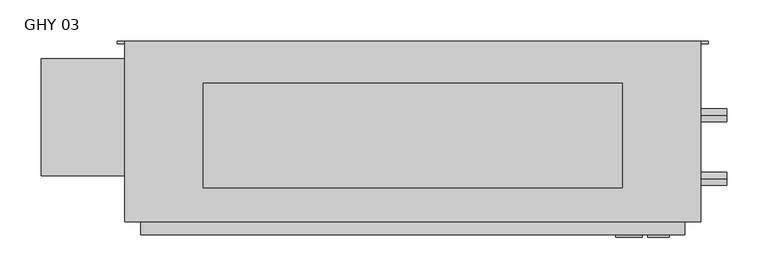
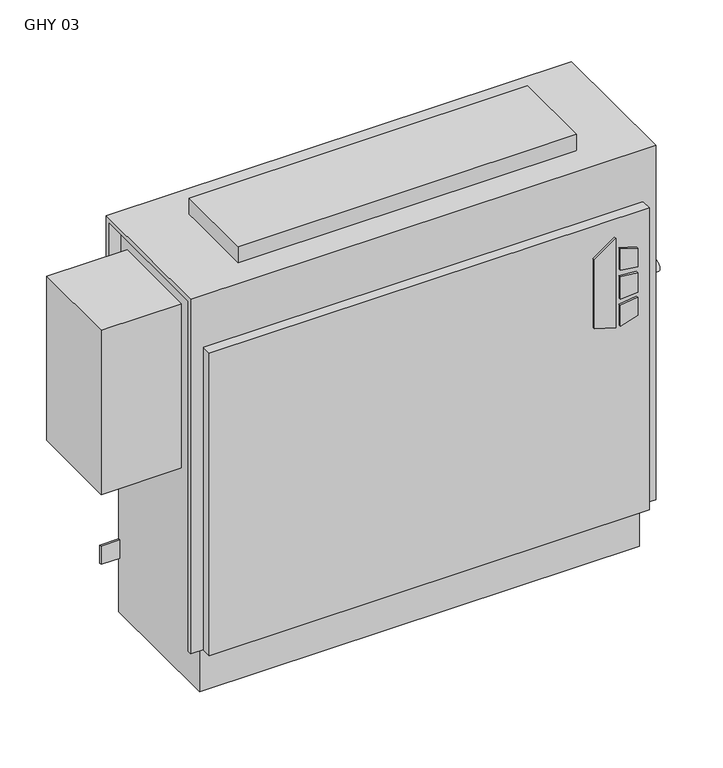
"""IFC4 building model written with IfcOpenShell, lengths in millimetres: proxy geometry, Vertical_Fan_Coil_Unit_-_GHY_-_IEC_-_2-Pipe_TS-FR_RH_2022 : GHY 03."""

from ifc_helpers import new_model, si_unit, point, frame, frame_2d, origin, place, context, project, spatial, polyline, circle_curve, trimmed, segment, composite_curve, outline, extrude, source, transform, mapped, element, save
from ifc_brep_helpers import plane_surface, revolved_surface, advanced_brep


def ghy_03_13433400(model_context):
    return source(origin(), model_context, "Body", "SolidModel", [
        extrude(outline(polyline([(391.6086829, 398.5368862), (381.6606126, 430.7102728), (523.831537, 430.7102728), (500.8095309, 398.5368862), (391.6086829, 398.5368862)])), frame((0.0, 6.35, 0.0), z_axis=(0.0, 1.0, 0.0), x_axis=(0.0, 0.0, 1.0)), (0.0, 0.0, 1.0), 3.175),
        extrude(outline(polyline([(470.6079683, 437.4686058), (467.4055757, 463.55), (496.6344168, 463.55), (504.6988318, 437.4686058), (470.6079683, 437.4686058)])), frame((0.0, 6.35, 0.0), z_axis=(0.0, 1.0, 0.0), x_axis=(0.0, 0.0, 1.0)), (0.0, 0.0, 1.0), 3.175),
        extrude(outline(polyline([(418.7444414, 463.55), (415.0789404, 437.4686058), (381.6606126, 437.4686058), (390.2948498, 463.55), (418.7444414, 463.55)])), frame((0.0, 6.35, 0.0), z_axis=(0.0, 1.0, 0.0), x_axis=(0.0, 0.0, 1.0)), (0.0, 0.0, 1.0), 3.175),
        extrude(outline(polyline([(458.0596028, 463.55), (460.3414292, 437.4686058), (424.4038806, 437.4686058), (427.1451456, 463.55), (458.0596028, 463.55)])), frame((0.0, 6.35, 0.0), z_axis=(0.0, 1.0, 0.0), x_axis=(0.0, 0.0, 1.0)), (0.0, 0.0, 1.0), 3.175),
        extrude(outline(polyline([(406.4, 193.675), (406.4, 66.675), (-101.6, 66.675), (-101.6, 193.675), (406.4, 193.675)])), frame((0.0, 0.0, 635.0), z_axis=(0.0, 0.0, 1.0), x_axis=(1.0, 0.0, 0.0)), (0.0, 0.0, 1.0), 25.4),
        extrude(outline(composite_curve([segment(trimmed(circle_curve(frame_2d((77.597, 401.574)), 7.9375), [point((77.597, 393.6365))], [point((77.597, 409.5115))], False, "CARTESIAN"), True, "CONTINUOUS"), segment(trimmed(circle_curve(frame_2d((77.597, 401.574)), 7.9375), [point((77.597, 409.5115))], [point((77.597, 393.6365))], False, "CARTESIAN"), True, "CONTINUOUS")], self_intersect=False)), frame((482.6, 0.0, 0.0), z_axis=(1.0, 0.0, 0.0), x_axis=(0.0, 1.0, 0.0)), (0.0, 0.0, 1.0), 50.8),
        extrude(outline(composite_curve([segment(trimmed(circle_curve(frame_2d((154.559, 540.512)), 7.9375), [point((154.559, 532.5745))], [point((154.559, 548.4495))], False, "CARTESIAN"), True, "CONTINUOUS"), segment(trimmed(circle_curve(frame_2d((154.559, 540.512)), 7.9375), [point((154.559, 548.4495))], [point((154.559, 532.5745))], False, "CARTESIAN"), True, "CONTINUOUS")], self_intersect=False)), frame((482.6, 0.0, 0.0), z_axis=(1.0, 0.0, 0.0), x_axis=(0.0, 1.0, 0.0)), (0.0, 0.0, 1.0), 50.8),
        extrude(outline(polyline([(-298.45, 223.266), (-177.8, 223.266), (-177.8, 81.534), (-298.45, 81.534), (-298.45, 223.266)])), frame((0.0, 0.0, 327.025), z_axis=(0.0, 0.0, 1.0), x_axis=(1.0, 0.0, 0.0)), (0.0, 0.0, 1.0), 260.35),
        advanced_brep(
        [(501.65, 244.475, 635.0), (-196.85, 244.475, 635.0), (-196.85, 25.4, 635.0), (501.65, 25.4, 635.0), (-177.8, 244.475, 0.0), (482.6, 244.475, 0.0), (482.6, 34.925, 0.0), (-177.8, 34.925, 0.0), (501.65, 244.475, 558.8), (482.6, 244.475, 558.8), (482.6, 244.475, 414.3375), (511.175, 244.475, 414.3375), (511.175, 244.475, 385.7625), (482.6, 244.475, 385.7625), (482.6, 244.475, 287.3375), (511.175, 244.475, 287.3375), (511.175, 244.475, 258.7625), (482.6, 244.475, 258.7625), (482.6, 244.475, 141.2875), (511.175, 244.475, 141.2875), (511.175, 244.475, 112.7125), (482.6, 244.475, 112.7125), (-177.8, 244.475, 87.3125), (-206.375, 244.475, 87.3125), (-206.375, 244.475, 115.8875), (-177.8, 244.475, 115.8875), (-177.8, 244.475, 258.7625), (-206.375, 244.475, 258.7625), (-206.375, 244.475, 287.3375), (-177.8, 244.475, 287.3375), (-177.8, 244.475, 385.7625), (-206.375, 244.475, 385.7625), (-206.375, 244.475, 414.3375), (-177.8, 244.475, 414.3375), (-177.8, 244.475, 558.8), (-196.85, 244.475, 558.8), (500.8626, 244.475, 127.0), (489.7374, 244.475, 127.0), (500.8626, 244.475, 273.05), (489.7374, 244.475, 273.05), (-184.9374, 244.475, 273.05), (-196.0626, 244.475, 273.05), (500.8626, 244.475, 400.05), (489.7374, 244.475, 400.05), (-184.9374, 244.475, 400.05), (-196.0626, 244.475, 400.05), (-196.85, 238.125, 558.8), (-196.85, 238.125, 628.65), (-196.85, 31.75, 628.65), (-196.85, 31.75, 73.025), (-196.85, 25.4, 73.025), (482.6, 9.525, 552.45), (-177.8, 9.525, 552.45), (-177.8, 9.525, 73.025), (482.6, 9.525, 73.025), (501.65, 25.4, 73.025), (501.65, 31.75, 73.025), (501.65, 31.75, 628.65), (501.65, 238.125, 628.65), (501.65, 238.125, 558.8), (-177.8, 25.4, 73.025), (-177.8, 25.4, 552.45), (482.6, 25.4, 552.45), (482.6, 25.4, 73.025), (-177.8, 31.75, 73.025), (-177.8, 34.925, 73.025), (482.6, 34.925, 73.025), (482.6, 31.75, 73.025), (482.6, 241.3, 112.7125), (482.6, 241.3, 141.2875), (482.6, 241.3, 258.7625), (482.6, 241.3, 287.3375), (482.6, 241.3, 385.7625), (482.6, 241.3, 414.3375), (482.6, 238.125, 558.8), (482.6, 238.125, 628.65), (482.6, 31.75, 628.65), (-177.8, 31.75, 628.65), (-177.8, 238.125, 628.65), (-177.8, 238.125, 558.8), (-177.8, 241.3, 414.3375), (-177.8, 241.3, 385.7625), (-177.8, 241.3, 287.3375), (-177.8, 241.3, 258.7625), (-177.8, 241.3, 115.8875), (-177.8, 241.3, 87.3125), (511.175, 241.3, 112.7125), (511.175, 241.3, 141.2875), (489.7374, 241.3, 127.0), (500.8626, 241.3, 127.0), (511.175, 241.3, 258.7625), (511.175, 241.3, 287.3375), (489.7374, 241.3, 273.05), (500.8626, 241.3, 273.05), (511.175, 241.3, 385.7625), (511.175, 241.3, 414.3375), (489.7374, 241.3, 400.05), (500.8626, 241.3, 400.05), (-206.375, 241.3, 115.8875), (-206.375, 241.3, 87.3125), (-206.375, 241.3, 287.3375), (-206.375, 241.3, 258.7625), (-196.0626, 241.3, 273.05), (-184.9374, 241.3, 273.05), (-206.375, 241.3, 414.3375), (-206.375, 241.3, 385.7625), (-196.0626, 241.3, 400.05), (-184.9374, 241.3, 400.05)],
        [
            (0, 1),
            (1, 2),
            (2, 3),
            (3, 0),
            (4, 5),
            (5, 6),
            (6, 7),
            (7, 4),
            (0, 8),
            (8, 9),
            (9, 10),
            (10, 11),
            (11, 12),
            (12, 13),
            (13, 14),
            (14, 15),
            (15, 16),
            (16, 17),
            (17, 18),
            (18, 19),
            (19, 20),
            (20, 21),
            (21, 5),
            (4, 22),
            (22, 23),
            (23, 24),
            (24, 25),
            (25, 26),
            (26, 27),
            (27, 28),
            (28, 29),
            (29, 30),
            (30, 31),
            (31, 32),
            (32, 33),
            (33, 34),
            (34, 35),
            (35, 1),
            (36, 37, circle_curve(frame((495.3, 244.475, 127.0), z_axis=(0.0, -1.0, 0.0), x_axis=(-1.0, 0.0, 0.0)), 5.5626)),
            (37, 36, circle_curve(frame((495.3, 244.475, 127.0), z_axis=(0.0, -1.0, 0.0), x_axis=(-1.0, 0.0, 0.0)), 5.5626)),
            (38, 39, circle_curve(frame((495.3, 244.475, 273.05), z_axis=(0.0, -1.0, 0.0), x_axis=(-1.0, 0.0, 0.0)), 5.5626)),
            (39, 38, circle_curve(frame((495.3, 244.475, 273.05), z_axis=(0.0, -1.0, 0.0), x_axis=(-1.0, 0.0, 0.0)), 5.5626)),
            (40, 41, circle_curve(frame((-190.5, 244.475, 273.05), z_axis=(0.0, -1.0, 0.0), x_axis=(-1.0, 0.0, 0.0)), 5.5626)),
            (41, 40, circle_curve(frame((-190.5, 244.475, 273.05), z_axis=(0.0, -1.0, 0.0), x_axis=(-1.0, 0.0, 0.0)), 5.5626)),
            (42, 43, circle_curve(frame((495.3, 244.475, 400.05), z_axis=(0.0, -1.0, 0.0), x_axis=(-1.0, 0.0, 0.0)), 5.5626)),
            (43, 42, circle_curve(frame((495.3, 244.475, 400.05), z_axis=(0.0, -1.0, 0.0), x_axis=(-1.0, 0.0, 0.0)), 5.5626)),
            (44, 45, circle_curve(frame((-190.5, 244.475, 400.05), z_axis=(0.0, -1.0, 0.0), x_axis=(-1.0, 0.0, 0.0)), 5.5626)),
            (45, 44, circle_curve(frame((-190.5, 244.475, 400.05), z_axis=(0.0, -1.0, 0.0), x_axis=(-1.0, 0.0, 0.0)), 5.5626)),
            (35, 46),
            (46, 47),
            (47, 48),
            (48, 49),
            (49, 50),
            (50, 2),
            (51, 52),
            (52, 53),
            (53, 54),
            (54, 51),
            (3, 55),
            (55, 56),
            (56, 57),
            (57, 58),
            (58, 59),
            (59, 8),
            (50, 60),
            (60, 61),
            (61, 62),
            (62, 63),
            (63, 55),
            (51, 62),
            (61, 52),
            (53, 60),
            (49, 64),
            (64, 65),
            (65, 66),
            (66, 67),
            (67, 56),
            (63, 54),
            (6, 66),
            (65, 7),
            (21, 68),
            (68, 69),
            (69, 18),
            (17, 70),
            (70, 71),
            (71, 14),
            (13, 72),
            (72, 73),
            (73, 10),
            (9, 74),
            (74, 75),
            (75, 76),
            (76, 67),
            (64, 77),
            (77, 78),
            (78, 79),
            (79, 34),
            (33, 80),
            (80, 81),
            (81, 30),
            (29, 82),
            (82, 83),
            (83, 26),
            (25, 84),
            (84, 85),
            (85, 22),
            (74, 59),
            (58, 75),
            (76, 57),
            (48, 77),
            (79, 46),
            (78, 47),
            (68, 86),
            (86, 87),
            (87, 69),
            (88, 89, circle_curve(frame((495.3, 241.3, 127.0), z_axis=(0.0, 1.0, 0.0), x_axis=(-1.0, 0.0, 0.0)), 5.5626)),
            (89, 88, circle_curve(frame((495.3, 241.3, 127.0), z_axis=(0.0, 1.0, 0.0), x_axis=(-1.0, 0.0, 0.0)), 5.5626)),
            (90, 91),
            (91, 71),
            (70, 90),
            (92, 93, circle_curve(frame((495.3, 241.3, 273.05), z_axis=(0.0, 1.0, 0.0), x_axis=(-1.0, 0.0, 0.0)), 5.5626)),
            (93, 92, circle_curve(frame((495.3, 241.3, 273.05), z_axis=(0.0, 1.0, 0.0), x_axis=(-1.0, 0.0, 0.0)), 5.5626)),
            (94, 95),
            (95, 73),
            (72, 94),
            (96, 97, circle_curve(frame((495.3, 241.3, 400.05), z_axis=(0.0, 1.0, 0.0), x_axis=(-1.0, 0.0, 0.0)), 5.5626)),
            (97, 96, circle_curve(frame((495.3, 241.3, 400.05), z_axis=(0.0, 1.0, 0.0), x_axis=(-1.0, 0.0, 0.0)), 5.5626)),
            (98, 99),
            (99, 85),
            (84, 98),
            (82, 100),
            (100, 101),
            (101, 83),
            (102, 103, circle_curve(frame((-190.5, 241.3, 273.05), z_axis=(0.0, 1.0, 0.0), x_axis=(-1.0, 0.0, 0.0)), 5.5626)),
            (103, 102, circle_curve(frame((-190.5, 241.3, 273.05), z_axis=(0.0, 1.0, 0.0), x_axis=(-1.0, 0.0, 0.0)), 5.5626)),
            (104, 105),
            (105, 81),
            (80, 104),
            (106, 107, circle_curve(frame((-190.5, 241.3, 400.05), z_axis=(0.0, 1.0, 0.0), x_axis=(-1.0, 0.0, 0.0)), 5.5626)),
            (107, 106, circle_curve(frame((-190.5, 241.3, 400.05), z_axis=(0.0, 1.0, 0.0), x_axis=(-1.0, 0.0, 0.0)), 5.5626)),
            (87, 19),
            (86, 20),
            (16, 90),
            (91, 15),
            (12, 94),
            (95, 11),
            (24, 98),
            (99, 23),
            (101, 27),
            (100, 28),
            (32, 104),
            (105, 31),
            (88, 37),
            (36, 89),
            (92, 39),
            (38, 93),
            (102, 41),
            (40, 103),
            (96, 43),
            (42, 97),
            (106, 45),
            (44, 107),
        ],
        [
            plane_surface(frame((-196.85, 244.475, 635.0), z_axis=(0.0, 0.0, 1.0), x_axis=(-1.0, 0.0, 0.0))),
            plane_surface(frame((-196.85, 244.475, 0.0), z_axis=(0.0, 0.0, -1.0), x_axis=(1.0, 0.0, 0.0))),
            plane_surface(frame((501.65, 244.475, 635.0), z_axis=(0.0, 1.0, 0.0), x_axis=(0.0, 0.0, -1.0))),
            plane_surface(frame((-196.85, 244.475, 635.0), z_axis=(-1.0, 0.0, 0.0), x_axis=(0.0, 0.0, -1.0))),
            plane_surface(frame((-196.85, 9.525, 635.0), z_axis=(0.0, -1.0, 0.0), x_axis=(0.0, 0.0, -1.0))),
            plane_surface(frame((501.65, 9.525, 635.0), z_axis=(1.0, 0.0, 0.0), x_axis=(0.0, 0.0, -1.0))),
            plane_surface(frame((-247.65, 25.4, 635.0), z_axis=(0.0, -1.0, 0.0), x_axis=(1.0, 0.0, 0.0))),
            plane_surface(frame((-247.65, 25.4, 552.45), z_axis=(0.0, 0.0, 1.0), x_axis=(1.0, 0.0, 0.0))),
            plane_surface(frame((-196.85, 9.525, 73.025), z_axis=(0.0, 0.0, -1.0), x_axis=(1.0, 0.0, 0.0))),
            plane_surface(frame((-196.85, 34.925, 73.025), z_axis=(0.0, -1.0, 0.0), x_axis=(1.0, 0.0, 0.0))),
            plane_surface(frame((482.6, 25.4, 73.025), z_axis=(1.0, 0.0, 0.0), x_axis=(0.0, -1.0, 0.0))),
            plane_surface(frame((-177.8, 25.4, 552.45), z_axis=(-1.0, 0.0, 0.0), x_axis=(0.0, -1.0, 0.0))),
            plane_surface(frame((482.6, 244.475, 0.0), z_axis=(1.0, 0.0, 0.0), x_axis=(0.0, -1.0, 0.0))),
            plane_surface(frame((-177.8, 244.475, 73.025), z_axis=(-1.0, 0.0, 0.0), x_axis=(0.0, -1.0, 0.0))),
            plane_surface(frame((482.6, 238.125, 628.65), z_axis=(0.0, -1.0, 0.0), x_axis=(1.0, 0.0, 0.0))),
            plane_surface(frame((482.6, 238.125, 558.8), z_axis=(0.0, 0.0, -1.0), x_axis=(1.0, 0.0, 0.0))),
            plane_surface(frame((482.6, 31.75, 73.025), z_axis=(0.0, 1.0, 0.0), x_axis=(1.0, 0.0, 0.0))),
            plane_surface(frame((482.6, 31.75, 628.65), z_axis=(0.0, 0.0, -1.0), x_axis=(1.0, 0.0, 0.0))),
            plane_surface(frame((-177.8, 31.75, 628.65), z_axis=(0.0, 1.0, 0.0), x_axis=(-1.0, 0.0, 0.0))),
            plane_surface(frame((-177.8, 244.475, 558.8), z_axis=(0.0, 0.0, -1.0), x_axis=(-1.0, 0.0, 0.0))),
            plane_surface(frame((-177.8, 238.125, 558.8), z_axis=(0.0, -1.0, 0.0), x_axis=(-1.0, 0.0, 0.0))),
            plane_surface(frame((-177.8, 238.125, 628.65), z_axis=(0.0, 0.0, -1.0), x_axis=(-1.0, 0.0, 0.0))),
            plane_surface(frame((511.175, 241.3, 141.2875), z_axis=(0.0, -1.0, 0.0), x_axis=(-1.0, 0.0, 0.0))),
            plane_surface(frame((482.6, 244.475, 141.2875), z_axis=(0.0, 0.0, 1.0), x_axis=(0.0, -1.0, 0.0))),
            plane_surface(frame((511.175, 244.475, 141.2875), z_axis=(1.0, 0.0, 0.0), x_axis=(0.0, -1.0, 0.0))),
            plane_surface(frame((511.175, 244.475, 112.7125), z_axis=(0.0, 0.0, -1.0), x_axis=(0.0, -1.0, 0.0))),
            plane_surface(frame((511.175, 244.475, 258.7625), z_axis=(0.0, 0.0, -1.0), x_axis=(0.0, -1.0, 0.0))),
            plane_surface(frame((482.6, 244.475, 287.3375), z_axis=(0.0, 0.0, 1.0), x_axis=(0.0, -1.0, 0.0))),
            plane_surface(frame((511.175, 244.475, 287.3375), z_axis=(1.0, 0.0, 0.0), x_axis=(0.0, -1.0, 0.0))),
            plane_surface(frame((511.175, 244.475, 385.7625), z_axis=(0.0, 0.0, -1.0), x_axis=(0.0, -1.0, 0.0))),
            plane_surface(frame((482.6, 244.475, 414.3375), z_axis=(0.0, 0.0, 1.0), x_axis=(0.0, -1.0, 0.0))),
            plane_surface(frame((511.175, 244.475, 414.3375), z_axis=(1.0, 0.0, 0.0), x_axis=(0.0, -1.0, 0.0))),
            plane_surface(frame((-206.375, 244.475, 115.8875), z_axis=(0.0, 0.0, 1.0), x_axis=(0.0, -1.0, 0.0))),
            plane_surface(frame((-177.8, 244.475, 87.3125), z_axis=(0.0, 0.0, -1.0), x_axis=(0.0, -1.0, 0.0))),
            plane_surface(frame((-206.375, 244.475, 87.3125), z_axis=(-1.0, 0.0, 0.0), x_axis=(0.0, -1.0, 0.0))),
            plane_surface(frame((-177.8, 244.475, 258.7625), z_axis=(0.0, 0.0, -1.0), x_axis=(0.0, -1.0, 0.0))),
            plane_surface(frame((-206.375, 244.475, 258.7625), z_axis=(-1.0, 0.0, 0.0), x_axis=(0.0, -1.0, 0.0))),
            plane_surface(frame((-206.375, 244.475, 287.3375), z_axis=(0.0, 0.0, 1.0), x_axis=(0.0, -1.0, 0.0))),
            plane_surface(frame((-206.375, 244.475, 414.3375), z_axis=(0.0, 0.0, 1.0), x_axis=(0.0, -1.0, 0.0))),
            plane_surface(frame((-177.8, 244.475, 385.7625), z_axis=(0.0, 0.0, -1.0), x_axis=(0.0, -1.0, 0.0))),
            plane_surface(frame((-206.375, 244.475, 385.7625), z_axis=(-1.0, 0.0, 0.0), x_axis=(0.0, -1.0, 0.0))),
            revolved_surface(polyline([(489.73740000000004, 241.3, 127.0), (489.73740000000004, 244.475, 127.0)]), (495.3, 244.475, 127.0), (0.0, -1.0, 0.0)),
            revolved_surface(polyline([(489.73740000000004, 241.3, 273.05), (489.73740000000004, 244.475, 273.05)]), (495.3, 244.475, 273.05), (0.0, -1.0, 0.0)),
            revolved_surface(polyline([(-196.0626, 241.3, 273.05), (-196.0626, 244.475, 273.05)]), (-190.5, 244.475, 273.05), (0.0, -1.0, 0.0)),
            revolved_surface(polyline([(489.73740000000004, 241.3, 400.05), (489.73740000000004, 244.475, 400.05)]), (495.3, 244.475, 400.05), (0.0, -1.0, 0.0)),
            revolved_surface(polyline([(-196.0626, 241.3, 400.05), (-196.0626, 244.475, 400.05)]), (-190.5, 244.475, 400.05), (0.0, -1.0, 0.0)),
        ],
        [
            (0, [[1, 2, 3, 4]]),
            (1, [[5, 6, 7, 8]]),
            (2, [[-1, 9, 10, 11, 12, 13, 14, 15, 16, 17, 18, 19, 20, 21, 22, 23, -5, 24, 25, 26, 27, 28, 29, 30, 31, 32, 33, 34, 35, 36, 37, 38], [39, 40], [41, 42], [43, 44], [45, 46], [47, 48]]),
            (3, [[-2, -38, 49, 50, 51, 52, 53, 54]]),
            (4, [[55, 56, 57, 58]]),
            (5, [[-4, 59, 60, 61, 62, 63, 64, -9]]),
            (6, [[-3, -54, 65, 66, 67, 68, 69, -59]]),
            (7, [[-55, 70, -67, 71]]),
            (8, [[-57, 72, -65, -53, 73, 74, 75, 76, 77, -60, -69, 78]]),
            (9, [[-7, 79, -75, 80]]),
            (10, [[-68, -70, -58, -78]]),
            (11, [[-66, -72, -56, -71]]),
            (12, [[-6, -23, 81, 82, 83, -19, 84, 85, 86, -15, 87, 88, 89, -11, 90, 91, 92, 93, -76, -79]]),
            (13, [[-8, -80, -74, 94, 95, 96, 97, -36, 98, 99, 100, -32, 101, 102, 103, -28, 104, 105, 106, -24]]),
            (14, [[-91, 107, -63, 108]]),
            (15, [[-90, -10, -64, -107]]),
            (16, [[-93, 109, -61, -77]]),
            (17, [[-92, -108, -62, -109]]),
            (18, [[-94, -73, -52, 110]]),
            (19, [[-97, 111, -49, -37]]),
            (20, [[-96, 112, -50, -111]]),
            (21, [[-95, -110, -51, -112]]),
            (22, [[113, 114, 115, -82], [116, 117]]),
            (22, [[118, 119, -85, 120], [121, 122]]),
            (22, [[123, 124, -88, 125], [126, 127]]),
            (22, [[128, 129, -105, 130]]),
            (22, [[131, 132, 133, -102], [134, 135]]),
            (22, [[136, 137, -99, 138], [139, 140]]),
            (23, [[-115, 141, -20, -83]]),
            (24, [[-114, 142, -21, -141]]),
            (25, [[-113, -81, -22, -142]]),
            (26, [[-120, -84, -18, 143]]),
            (27, [[-119, 144, -16, -86]]),
            (28, [[-118, -143, -17, -144]]),
            (29, [[-125, -87, -14, 145]]),
            (30, [[-124, 146, -12, -89]]),
            (31, [[-123, -145, -13, -146]]),
            (32, [[-130, -104, -27, 147]]),
            (33, [[-129, 148, -25, -106]]),
            (34, [[-128, -147, -26, -148]]),
            (35, [[-133, 149, -29, -103]]),
            (36, [[-132, 150, -30, -149]]),
            (37, [[-131, -101, -31, -150]]),
            (38, [[-138, -98, -35, 151]]),
            (39, [[-137, 152, -33, -100]]),
            (40, [[-136, -151, -34, -152]]),
            (41, [[153, -39, 154, -116]]),
            (41, [[-153, -117, -154, -40]]),
            (42, [[155, -41, 156, -121]]),
            (42, [[-155, -122, -156, -42]]),
            (43, [[157, -43, 158, -134]]),
            (43, [[-157, -135, -158, -44]]),
            (44, [[159, -45, 160, -126]]),
            (44, [[-159, -127, -160, -46]]),
            (45, [[161, -47, 162, -139]]),
            (45, [[-161, -140, -162, -48]]),
        ],
    ),
    ])


if __name__ == "__main__":
    model = new_model("IFC4")
    model_context = context("Model", 3, world=origin())
    ifc_project = project(units=[si_unit("LENGTHUNIT", "METRE", prefix="MILLI")], contexts=[model_context])
    site = spatial("IfcSite", under=ifc_project)
    building = spatial("IfcBuilding", under=site)
    placement = place(None, origin())
    ghy_03_shape = ghy_03_13433400(model_context)
    element("IfcBuildingElementProxy", 1, Name="Vertical_Fan_Coil_Unit_-_GHY_-_IEC_-_2-Pipe_TS-FR_RH_2022 : GHY 03", ObjectType="Vertical_Fan_Coil_Unit_-_GHY_-_IEC_-_2-Pipe_TS-FR_RH_2022 : GHY 03", at=placement, inside=building, context=model_context, shape_type="MappedRepresentation", body=[
        mapped(ghy_03_shape, transform((0.0, 0.0, 0.0), x_axis=(1.0, 0.0, 0.0), y_axis=(0.0, 1.0, 0.0), z_axis=(0.0, 0.0, 1.0))),
    ])
    save(model, "model.ifc")
